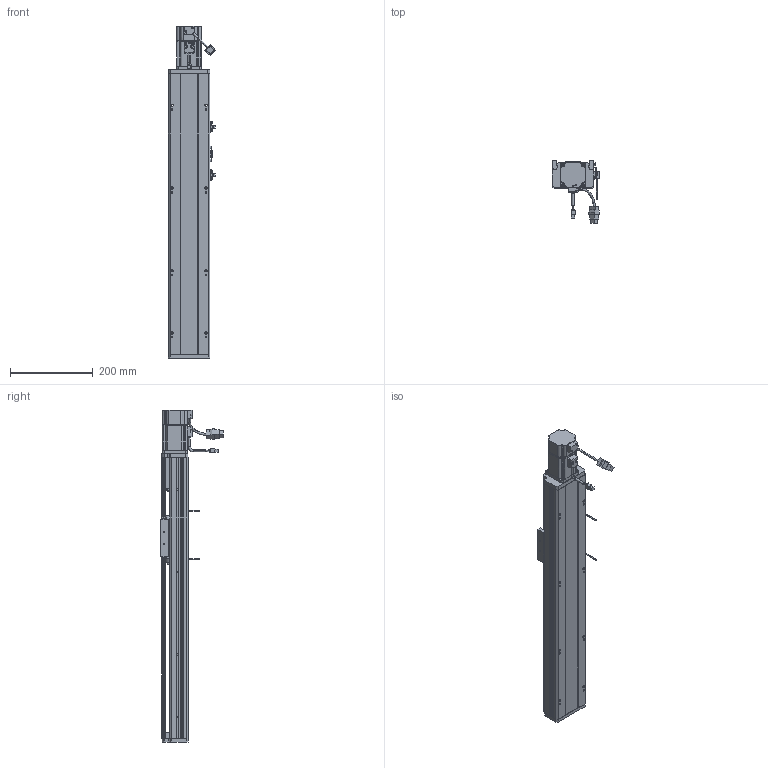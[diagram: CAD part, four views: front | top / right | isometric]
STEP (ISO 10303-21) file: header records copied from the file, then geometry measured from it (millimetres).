
FILE_DESCRIPTION (( 'STEP AP214' ), '1' );
FILE_NAME ('CTH10-450.STEP', '2019-11-18T08:33:37', ( '微软用户' ), ( '微软中国' ), 'SwSTEP 2.0', 'SolidWorks 2017', '' );
FILE_SCHEMA (( 'AUTOMOTIVE_DESIGN' ));
Length unit declared in the file: millimetre
Products named in the file (34): CTH10-450; CTH10-底座_默认<按加工>; CTH10-移动座_默认<按加工>; CTH10-蹟簽蟀諉啣; CTH10-盓傅釱; CTH10-傷啣; CTH10-侜督萇儂啣; SFH1605-288; SFH1605; CTH10-盖板_默认<按加工>; 怢湛200W侜督萇儂ECMA-CX0602ES; CTH10-粣創釱; BEARING_BaseModel20190604090351; 7001-DF; 粣創揤啣; COL12B-粣遠; 坶踡蹟譫; M4-L8囀鞠褒蹟佪; M3-L10囀鞠褒蹟佪; CTH10粣創釱蚾饜极; M5-L20囀鞠褒蹟佪; 遣喳蝶15x12x8; 6000Z粣創; M4-L6半圆头内六角螺丝; EE-SX672; M3-L8囀鞠褒蹟佪; 100耀郪-覜茼んえ; MGN12C; MGN12C-R1; MGN12C-2R420-Z0CHC; 噩砃M3-L10囀鞠褒蹟佪; 噩砃MGN12C; 噩砃MGN12C-R1; 噩砃MGN12C-2R420-Z0CHC
Assembly tree (100 placements, depth 4):
  CTH10-450
    CTH10-底座_默认<按加工>
    CTH10-移动座_默认<按加工>
    CTH10-蹟簽蟀諉啣
    CTH10-盓傅釱
    CTH10-傷啣
    CTH10-侜督萇儂啣
    SFH1605-288
    SFH1605
    CTH10-盖板_默认<按加工>
    怢湛200W侜督萇儂ECMA-CX0602ES
    CTH10粣創釱蚾饜极
      CTH10-粣創釱
      7001-DF
        BEARING_BaseModel20190604090351  x2
      粣創揤啣
      COL12B-粣遠  x2
      坶踡蹟譫
      M4-L8囀鞠褒蹟佪  x4
      M3-L10囀鞠褒蹟佪  x6
    M3-L10囀鞠褒蹟佪  x19
    M5-L20囀鞠褒蹟佪  x4
    遣喳蝶15x12x8  x3
    6000Z粣創
    M4-L6半圆头内六角螺丝  x4
    M4-L8囀鞠褒蹟佪  x8
    EE-SX672  x2
    M3-L8囀鞠褒蹟佪  x4
    100耀郪-覜茼んえ
    MGN12C-2R420-Z0CHC
      MGN12C
      MGN12C-R1  x2
      M3-L10囀鞠褒蹟佪  x8
    噩砃M3-L10囀鞠褒蹟佪
    噩砃MGN12C-2R420-Z0CHC
      噩砃MGN12C
      噩砃MGN12C-R1  x2
      噩砃M3-L10囀鞠褒蹟佪  x8
Bounding box: 114.24 x 151.37 x 802 mm (x, y, z)
Volume: 2173244.2 mm3; surface area: 786703.3 mm2
Topology: 96 solids, 105 shells, 4501 faces, 11302 edges, 7040 vertices
Faces by surface type: plane 2302, cylinder 1312, cone 601, bspline 241, torus 33, sphere 12
Entity records: 92588 total; most frequent: CARTESIAN_POINT 28274, ORIENTED_EDGE 13108, DIRECTION 12487, EDGE_CURVE 6554, AXIS2_PLACEMENT_3D 4410, VERTEX_POINT 4254, VECTOR 3667, LINE 3667
